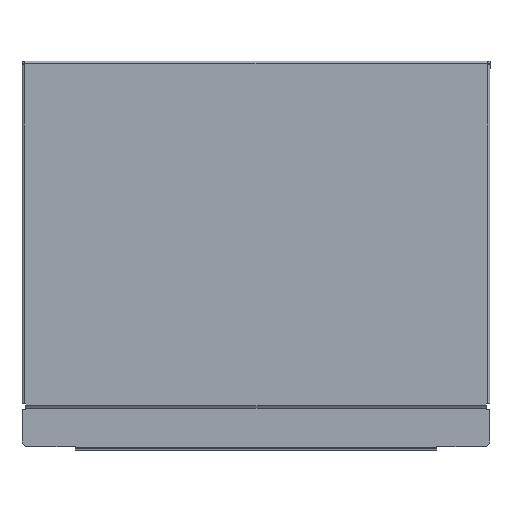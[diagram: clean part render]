
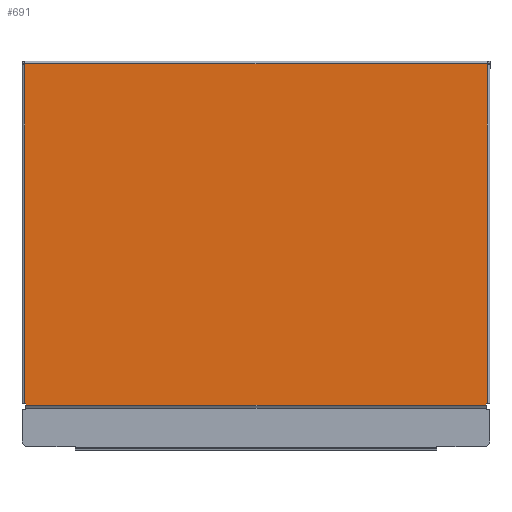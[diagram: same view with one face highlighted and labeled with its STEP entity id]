
A CAD part, front view. The second image highlights one B-rep face of the part: STEP entity #691.
In plain terms, the highlighted planar face has unit normal (0, -1, 0).
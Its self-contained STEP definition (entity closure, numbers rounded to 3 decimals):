
#18 = VERTEX_POINT ( 'NONE', #482 ) ;
#97 = DIRECTION ( 'NONE',  ( 1., 0., 0. ) ) ;
#99 = DIRECTION ( 'NONE',  ( 0., -1., 0. ) ) ;
#100 = CARTESIAN_POINT ( 'NONE',  ( -92.5, -6., 17. ) ) ;
#101 = PLANE ( 'NONE',  #1299 ) ;
#123 = VERTEX_POINT ( 'NONE', #441 ) ;
#229 = VERTEX_POINT ( 'NONE', #406 ) ;
#332 = CARTESIAN_POINT ( 'NONE',  ( 91., -6., 17.5 ) ) ;
#346 = CARTESIAN_POINT ( 'NONE',  ( -91., -6., 17. ) ) ;
#350 = CARTESIAN_POINT ( 'NONE',  ( -91.5, -6., 17.5 ) ) ;
#351 = CARTESIAN_POINT ( 'NONE',  ( 91.5, -6., 152. ) ) ;
#368 = CARTESIAN_POINT ( 'NONE',  ( 91., -6., 17. ) ) ;
#369 = CARTESIAN_POINT ( 'NONE',  ( -91.5, -6., 151.5 ) ) ;
#371 = CARTESIAN_POINT ( 'NONE',  ( 91.5, -6., 151.5 ) ) ;
#406 = CARTESIAN_POINT ( 'NONE',  ( -91.5, -6., 152. ) ) ;
#441 = CARTESIAN_POINT ( 'NONE',  ( -91., -6., 17.5 ) ) ;
#482 = CARTESIAN_POINT ( 'NONE',  ( 91.5, -6., 17.5 ) ) ;
#523 = VERTEX_POINT ( 'NONE', #371 ) ;
#525 = VERTEX_POINT ( 'NONE', #369 ) ;
#526 = VERTEX_POINT ( 'NONE', #368 ) ;
#537 = VERTEX_POINT ( 'NONE', #351 ) ;
#538 = VERTEX_POINT ( 'NONE', #350 ) ;
#542 = VERTEX_POINT ( 'NONE', #346 ) ;
#555 = VERTEX_POINT ( 'NONE', #332 ) ;
#613 = CARTESIAN_POINT ( 'NONE',  ( -91.5, -6., 170.385 ) ) ;
#614 = DIRECTION ( 'NONE',  ( 0., 0., -1. ) ) ;
#615 = CARTESIAN_POINT ( 'NONE',  ( -92.5, -6., 17.5 ) ) ;
#616 = DIRECTION ( 'NONE',  ( 1., 0., 0. ) ) ;
#617 = CARTESIAN_POINT ( 'NONE',  ( -91., -6., 17.5 ) ) ;
#618 = DIRECTION ( 'NONE',  ( 0., 0., -1. ) ) ;
#619 = CARTESIAN_POINT ( 'NONE',  ( -92.5, -6., 17. ) ) ;
#620 = DIRECTION ( 'NONE',  ( 1., 0., 0. ) ) ;
#621 = CARTESIAN_POINT ( 'NONE',  ( 91., -6., 15.3 ) ) ;
#622 = DIRECTION ( 'NONE',  ( 0., 0., 1. ) ) ;
#623 = CARTESIAN_POINT ( 'NONE',  ( 91., -6., 17.5 ) ) ;
#624 = DIRECTION ( 'NONE',  ( 1., 0., 0. ) ) ;
#625 = CARTESIAN_POINT ( 'NONE',  ( 91.5, -6., 170.385 ) ) ;
#626 = DIRECTION ( 'NONE',  ( 0., 0., -1. ) ) ;
#627 = CARTESIAN_POINT ( 'NONE',  ( 91.5, -6., 170.385 ) ) ;
#628 = DIRECTION ( 'NONE',  ( 0., 0., -1. ) ) ;
#629 = CARTESIAN_POINT ( 'NONE',  ( -92.5, -6., 152. ) ) ;
#630 = DIRECTION ( 'NONE',  ( 1., 0., 0. ) ) ;
#691 = ADVANCED_FACE ( 'NONE', ( #2021 ), #101, .T. ) ;
#876 = EDGE_LOOP ( 'NONE', ( #1942, #1941, #1940, #1939, #1938, #1937, #1936, #1935, #1934, #1933 ) ) ;
#951 = EDGE_CURVE ( 'NONE', #229, #525, #2079, .T. ) ;
#1299 = AXIS2_PLACEMENT_3D ( 'NONE', #100, #99, #97 ) ;
#1624 = DIRECTION ( 'NONE',  ( 0., 0., -1. ) ) ;
#1625 = CARTESIAN_POINT ( 'NONE',  ( -91.5, -6., 170.385 ) ) ;
#1933 = ORIENTED_EDGE ( 'NONE', *, *, #951, .T. ) ;
#1934 = ORIENTED_EDGE ( 'NONE', *, *, #2483, .F. ) ;
#1935 = ORIENTED_EDGE ( 'NONE', *, *, #2482, .F. ) ;
#1936 = ORIENTED_EDGE ( 'NONE', *, *, #2481, .F. ) ;
#1937 = ORIENTED_EDGE ( 'NONE', *, *, #2480, .T. ) ;
#1938 = ORIENTED_EDGE ( 'NONE', *, *, #2479, .T. ) ;
#1939 = ORIENTED_EDGE ( 'NONE', *, *, #2478, .T. ) ;
#1940 = ORIENTED_EDGE ( 'NONE', *, *, #2477, .T. ) ;
#1941 = ORIENTED_EDGE ( 'NONE', *, *, #2476, .T. ) ;
#1942 = ORIENTED_EDGE ( 'NONE', *, *, #2475, .T. ) ;
#2021 = FACE_OUTER_BOUND ( 'NONE', #876, .T. ) ;
#2079 = LINE ( 'NONE', #1625, #2080 ) ;
#2080 = VECTOR ( 'NONE', #1624, 1000. ) ;
#2420 = LINE ( 'NONE', #613, #2422 ) ;
#2422 = VECTOR ( 'NONE', #614, 1000. ) ;
#2423 = LINE ( 'NONE', #615, #2424 ) ;
#2424 = VECTOR ( 'NONE', #616, 1000. ) ;
#2425 = LINE ( 'NONE', #617, #2426 ) ;
#2426 = VECTOR ( 'NONE', #618, 1000. ) ;
#2427 = LINE ( 'NONE', #619, #2428 ) ;
#2428 = VECTOR ( 'NONE', #620, 1000. ) ;
#2429 = LINE ( 'NONE', #621, #2430 ) ;
#2430 = VECTOR ( 'NONE', #622, 1000. ) ;
#2431 = LINE ( 'NONE', #623, #2432 ) ;
#2432 = VECTOR ( 'NONE', #624, 1000. ) ;
#2433 = LINE ( 'NONE', #625, #2434 ) ;
#2434 = VECTOR ( 'NONE', #626, 1000. ) ;
#2435 = LINE ( 'NONE', #627, #2436 ) ;
#2436 = VECTOR ( 'NONE', #628, 1000. ) ;
#2437 = LINE ( 'NONE', #629, #2438 ) ;
#2438 = VECTOR ( 'NONE', #630, 1000. ) ;
#2475 = EDGE_CURVE ( 'NONE', #525, #538, #2420, .T. ) ;
#2476 = EDGE_CURVE ( 'NONE', #538, #123, #2423, .T. ) ;
#2477 = EDGE_CURVE ( 'NONE', #123, #542, #2425, .T. ) ;
#2478 = EDGE_CURVE ( 'NONE', #542, #526, #2427, .T. ) ;
#2479 = EDGE_CURVE ( 'NONE', #526, #555, #2429, .T. ) ;
#2480 = EDGE_CURVE ( 'NONE', #555, #18, #2431, .T. ) ;
#2481 = EDGE_CURVE ( 'NONE', #523, #18, #2433, .T. ) ;
#2482 = EDGE_CURVE ( 'NONE', #537, #523, #2435, .T. ) ;
#2483 = EDGE_CURVE ( 'NONE', #229, #537, #2437, .T. ) ;
